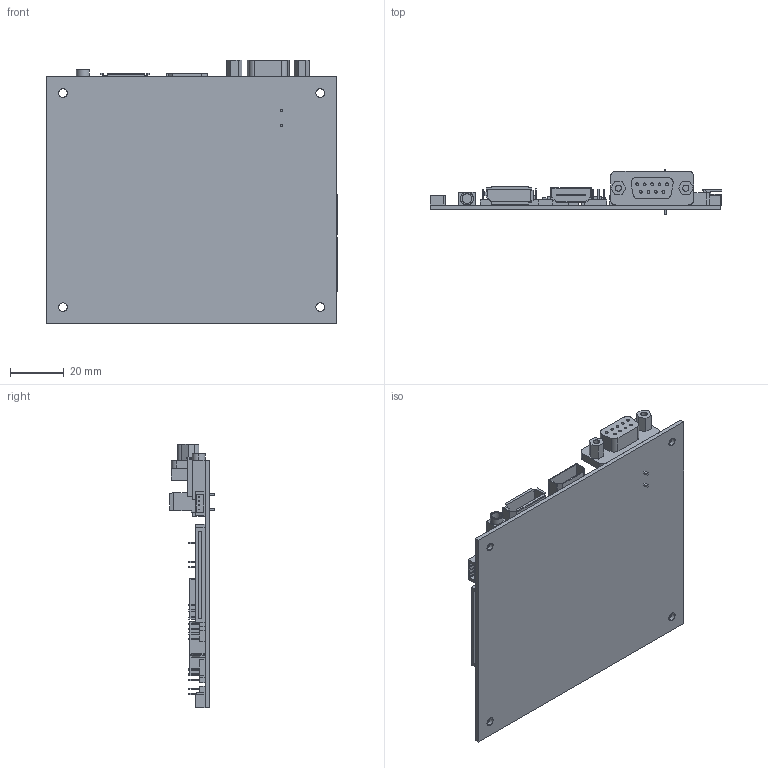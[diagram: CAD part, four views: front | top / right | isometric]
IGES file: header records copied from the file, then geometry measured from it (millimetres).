
Start section: SolidWorks IGES file using analytic representation for surfaces
Global section: file name: Y:\keith Tsang\doing\Project\Products\ALR-1920\HLR-1920\3D 2D\3d\HLR-1920_IGS.IGS; native system: SolidWorks 2011; preprocessor: SolidWorks 2011; author: keithtsang; date: 151005.122121; units: millimetre
Bounding box: 107.8 x 16.5 x 97.5 mm (x, y, z)
Surface area: 32327.2 mm2 (no closed solid volume)
Topology: 0 solids, 0 shells, 1072 faces, 6018 edges, 6018 vertices
Faces by surface type: bspline 1029, revolution 43
